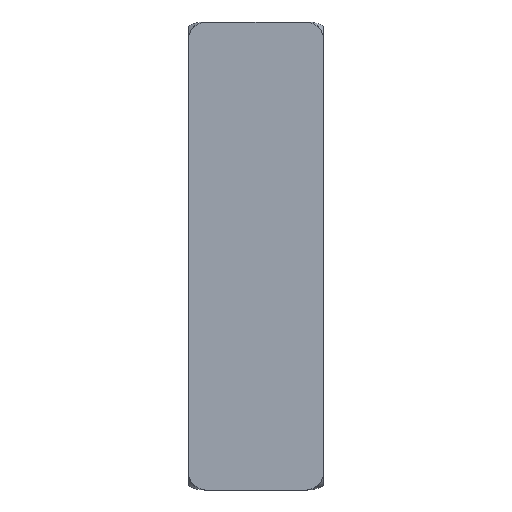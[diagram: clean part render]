
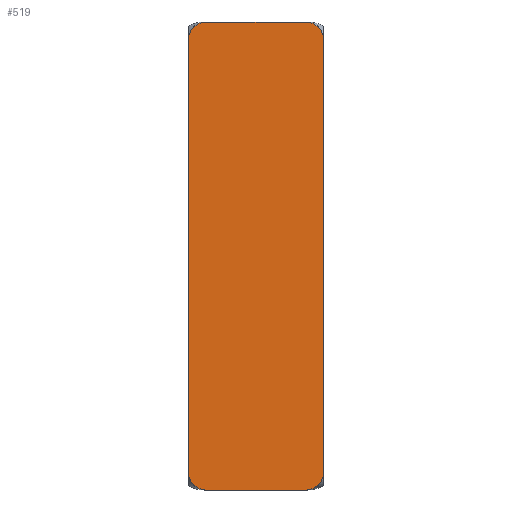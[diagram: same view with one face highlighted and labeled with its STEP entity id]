
A CAD part, front view. The second image highlights one B-rep face of the part: STEP entity #519.
In plain terms, the highlighted planar face has unit normal (0, -1, 0).
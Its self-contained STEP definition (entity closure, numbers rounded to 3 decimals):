
#17=PLANE('',#589);
#42=FACE_OUTER_BOUND('',#72,.T.);
#72=EDGE_LOOP('',(#374,#375,#376,#377,#378,#379,#380,#381));
#90=CIRCLE('',#562,1.);
#96=CIRCLE('',#576,1.);
#101=CIRCLE('',#590,1.);
#102=CIRCLE('',#591,1.);
#135=LINE('',#849,#175);
#140=LINE('',#862,#180);
#142=LINE('',#866,#182);
#143=LINE('',#870,#183);
#175=VECTOR('',#687,10.);
#180=VECTOR('',#700,10.);
#182=VECTOR('',#704,10.);
#183=VECTOR('',#707,10.);
#203=VERTEX_POINT('',#791);
#205=VERTEX_POINT('',#795);
#217=VERTEX_POINT('',#828);
#218=VERTEX_POINT('',#830);
#227=VERTEX_POINT('',#861);
#228=VERTEX_POINT('',#865);
#229=VERTEX_POINT('',#867);
#230=VERTEX_POINT('',#869);
#249=EDGE_CURVE('',#203,#205,#90,.T.);
#266=EDGE_CURVE('',#217,#218,#96,.T.);
#275=EDGE_CURVE('',#205,#217,#135,.T.);
#281=EDGE_CURVE('',#203,#227,#140,.T.);
#283=EDGE_CURVE('',#218,#228,#142,.T.);
#284=EDGE_CURVE('',#229,#228,#101,.T.);
#285=EDGE_CURVE('',#230,#229,#143,.T.);
#286=EDGE_CURVE('',#227,#230,#102,.T.);
#374=ORIENTED_EDGE('',*,*,#283,.T.);
#375=ORIENTED_EDGE('',*,*,#284,.F.);
#376=ORIENTED_EDGE('',*,*,#285,.F.);
#377=ORIENTED_EDGE('',*,*,#286,.F.);
#378=ORIENTED_EDGE('',*,*,#281,.F.);
#379=ORIENTED_EDGE('',*,*,#249,.T.);
#380=ORIENTED_EDGE('',*,*,#275,.T.);
#381=ORIENTED_EDGE('',*,*,#266,.T.);
#519=ADVANCED_FACE('',(#42),#17,.F.);
#562=AXIS2_PLACEMENT_3D('',#797,#630,#631);
#576=AXIS2_PLACEMENT_3D('',#832,#666,#667);
#589=AXIS2_PLACEMENT_3D('',#864,#702,#703);
#590=AXIS2_PLACEMENT_3D('',#868,#705,#706);
#591=AXIS2_PLACEMENT_3D('',#871,#708,#709);
#630=DIRECTION('center_axis',(0.,-1.,0.));
#631=DIRECTION('ref_axis',(0.707,0.,0.707));
#666=DIRECTION('center_axis',(0.,-1.,0.));
#667=DIRECTION('ref_axis',(-0.707,0.,0.707));
#687=DIRECTION('',(-1.,0.,0.));
#700=DIRECTION('',(0.,0.,-1.));
#702=DIRECTION('center_axis',(0.,1.,0.));
#703=DIRECTION('ref_axis',(1.,0.,0.));
#704=DIRECTION('',(0.,0.,-1.));
#705=DIRECTION('center_axis',(0.,1.,0.));
#706=DIRECTION('ref_axis',(-0.707,0.,-0.707));
#707=DIRECTION('',(-1.,0.,0.));
#708=DIRECTION('center_axis',(0.,1.,0.));
#709=DIRECTION('ref_axis',(0.707,0.,-0.707));
#791=CARTESIAN_POINT('',(14.886,-1.8,19.));
#795=CARTESIAN_POINT('',(13.886,-1.8,20.));
#797=CARTESIAN_POINT('Origin',(13.886,-1.8,19.));
#828=CARTESIAN_POINT('',(8.114,-1.8,20.));
#830=CARTESIAN_POINT('',(7.114,-1.8,19.));
#832=CARTESIAN_POINT('Origin',(8.114,-1.8,19.));
#849=CARTESIAN_POINT('',(11.,-1.8,20.));
#861=CARTESIAN_POINT('',(14.886,-1.8,-6.));
#862=CARTESIAN_POINT('',(14.886,-1.8,0.));
#864=CARTESIAN_POINT('Origin',(7.114,-1.8,0.));
#865=CARTESIAN_POINT('',(7.114,-1.8,-6.));
#866=CARTESIAN_POINT('',(7.114,-1.8,0.));
#867=CARTESIAN_POINT('',(8.114,-1.8,-7.));
#868=CARTESIAN_POINT('Origin',(8.114,-1.8,-6.));
#869=CARTESIAN_POINT('',(13.886,-1.8,-7.));
#870=CARTESIAN_POINT('',(11.,-1.8,-7.));
#871=CARTESIAN_POINT('Origin',(13.886,-1.8,-6.));
